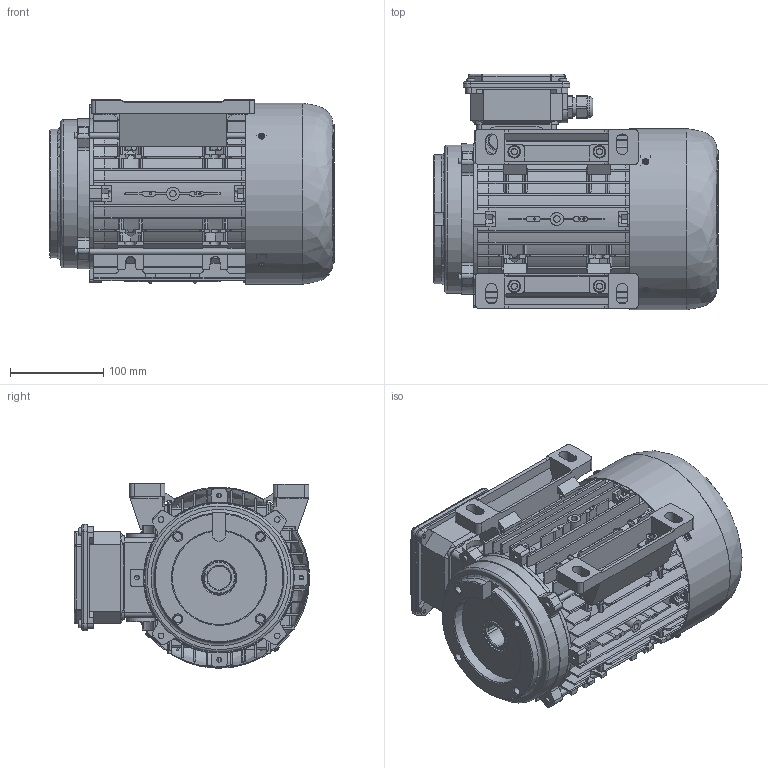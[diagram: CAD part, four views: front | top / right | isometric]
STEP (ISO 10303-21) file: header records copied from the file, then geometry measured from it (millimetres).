
FILE_DESCRIPTION(/* description */ ('Unknown'),/* implementation_level */ '2;1');
FILE_NAME(/* name */ 'W:\Tecnico\Archivio\Dimensioni Pompe\3D Export\Motori\MRE100-1DX.stp',/* time_stamp */ '2021-04-07T12:26:19+02:00',/* author */ ('marcop'),/* organization */ ('Unknown'),/* preprocessor_version */ 'ST-DEVELOPER v17',/* originating_system */ 'Autodesk Inventor 2018',/* authorisation */ ' ');
FILE_SCHEMA (('AUTOMOTIVE_DESIGN { 1 0 10303 214 3 1 1 }'));
Products named in the file (1): 1182 M100 ATT.100-(ME100 1 DX)
Bounding box: 305 x 251.99 x 197.59 mm (x, y, z)
Volume: 2312286.3 mm3; surface area: 1017465.9 mm2
Topology: 1 solids, 32 shells, 3522 faces, 10052 edges, 6732 vertices
Faces by surface type: plane 2182, cylinder 970, cone 210, torus 92, bspline 60, sphere 8
Full cylindrical faces by diameter (mm): 2.3 x11, 2.5 x2, 3 x2, 3.1 x1, 3.2 x4, 3.242 x2, 3.5 x4, 3.748 x2, 3.808 x2, 4.134 x8, 4.917 x8, 5 x8, 5.5 x12, 6 x20, 6.6 x4, 6.647 x4, 7 x3, 7.5 x4, 8 x7, 8.5 x4, 9 x4, 10 x1, 12.8 x4, 14 x1, 15 x1, 17 x1, 18 x2, 18.5 x1, 20 x3, 23 x3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
Entity records: 124327 total; most frequent: CARTESIAN_POINT 27069, ORIENTED_EDGE 20062, DIRECTION 19304, EDGE_CURVE 10031, VERTEX_POINT 6732, AXIS2_PLACEMENT_3D 6508, LINE 6288, VECTOR 6288
